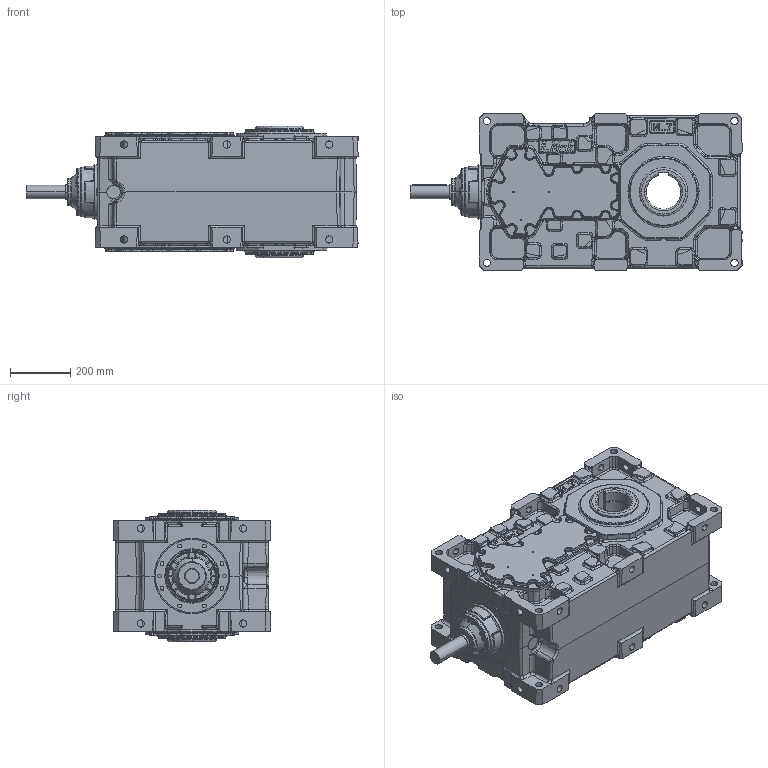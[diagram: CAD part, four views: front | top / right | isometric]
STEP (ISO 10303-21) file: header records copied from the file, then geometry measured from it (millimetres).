
FILE_DESCRIPTION (( 'STEP AP203' ), '1' );
FILE_NAME ('MK 703-G07.step', '2025-03-01T00:15:48', ( '' ), ( '' ), 'SwSTEP 2.0', 'SolidWorks 2023', '' );
FILE_SCHEMA (( 'CONFIG_CONTROL_DESIGN' ));
Products named in the file (3): Giriş Mili_MK 703-803; Gövde_M_70__M7; MK 703-G07
Assembly tree (2 placements, depth 2):
  MK 703-G07
    Gövde_M_70__M7
    Giriş Mili_MK 703-803
Bounding box: 1100 x 520 x 435 mm (x, y, z)
Volume: 146084104.3 mm3; surface area: 2733353.1 mm2
Topology: 2 solids, 2 shells, 3654 faces, 9089 edges, 5401 vertices
Faces by surface type: cylinder 1377, bspline 1267, plane 932, cone 66, torus 12
Entity records: 185403 total; most frequent: CARTESIAN_POINT 109304, ORIENTED_EDGE 18002, DIRECTION 12803, EDGE_CURVE 9001, VERTEX_POINT 5401, AXIS2_PLACEMENT_3D 4612, EDGE_LOOP 3788, ADVANCED_FACE 3654
